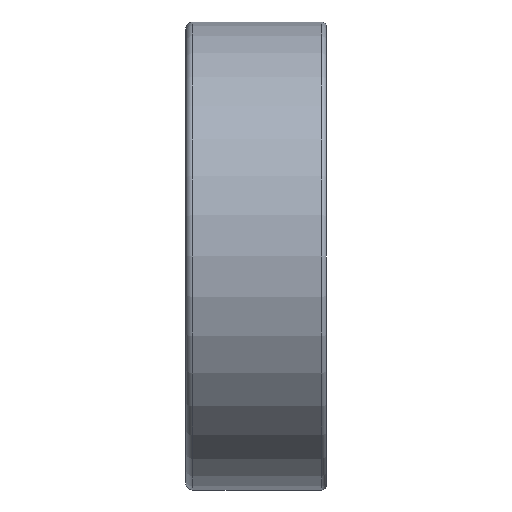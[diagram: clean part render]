
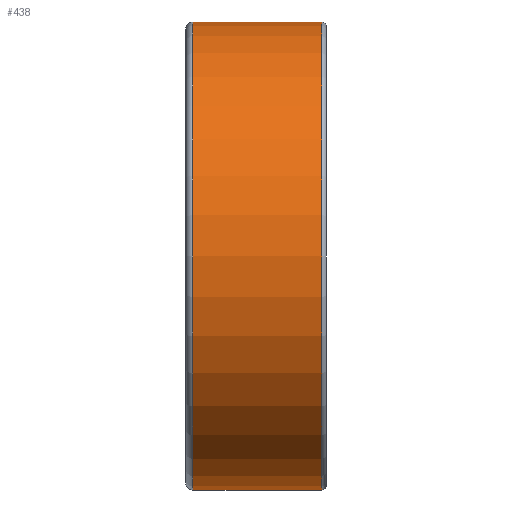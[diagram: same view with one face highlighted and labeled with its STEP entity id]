
A CAD part, front view. The second image highlights one B-rep face of the part: STEP entity #438.
In plain terms, the highlighted cylindrical face has radius 10 mm (diameter 20 mm), a full revolution.
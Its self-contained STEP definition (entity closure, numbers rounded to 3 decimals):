
#146=CYLINDRICAL_SURFACE('',#666,10.);
#218=EDGE_LOOP('',(#302));
#219=EDGE_LOOP('',(#303));
#302=ORIENTED_EDGE('',*,*,#352,.F.);
#303=ORIENTED_EDGE('',*,*,#350,.T.);
#350=EDGE_CURVE('',#607,#607,#370,.T.);
#352=EDGE_CURVE('',#609,#609,#372,.T.);
#370=CIRCLE('',#662,10.);
#372=CIRCLE('',#665,10.);
#438=ADVANCED_FACE('',(#537,#538),#146,.T.);
#537=FACE_BOUND('',#218,.T.);
#538=FACE_BOUND('',#219,.T.);
#607=VERTEX_POINT('',#2170);
#609=VERTEX_POINT('',#2175);
#662=AXIS2_PLACEMENT_3D('',#2169,#769,#770);
#665=AXIS2_PLACEMENT_3D('',#2174,#775,#776);
#666=AXIS2_PLACEMENT_3D('',#2176,#777,#778);
#769=DIRECTION('',(1.,0.,0.));
#770=DIRECTION('',(0.,0.,-1.));
#775=DIRECTION('',(1.,0.,0.));
#776=DIRECTION('',(0.,0.,-1.));
#777=DIRECTION('',(1.,0.,0.));
#778=DIRECTION('',(0.,0.,-1.));
#2169=CARTESIAN_POINT('',(-2.7,0.,0.));
#2170=CARTESIAN_POINT('',(-2.7,0.,-10.));
#2174=CARTESIAN_POINT('',(2.8,0.,0.));
#2175=CARTESIAN_POINT('',(2.8,0.,-10.));
#2176=CARTESIAN_POINT('',(-2.7,0.,0.));
